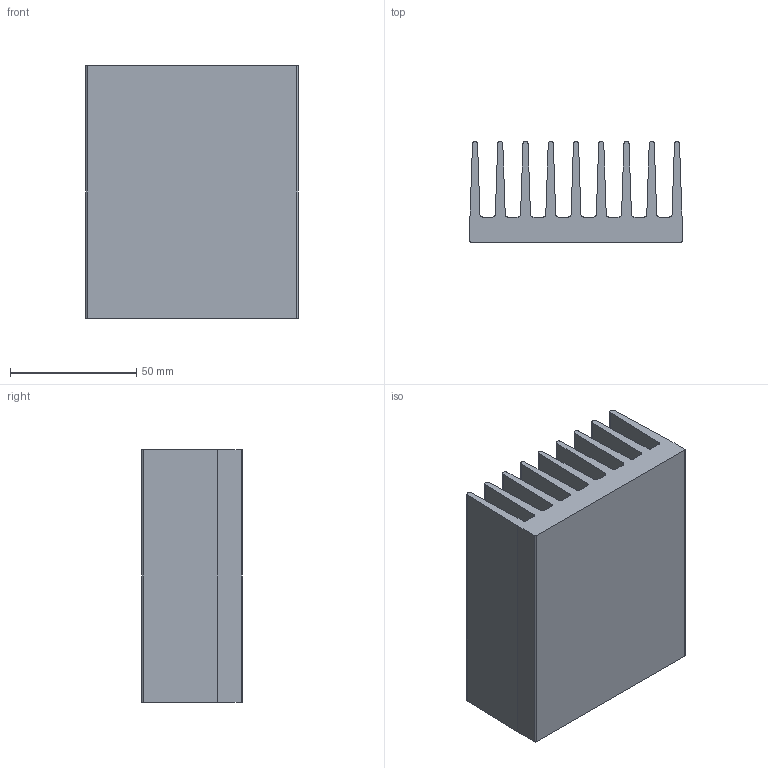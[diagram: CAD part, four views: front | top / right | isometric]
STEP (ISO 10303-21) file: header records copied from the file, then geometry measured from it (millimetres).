
FILE_DESCRIPTION (( 'STEP AP214' ), '1' );
FILE_NAME ('PR388.STEP', '2013-06-12T17:37:10', ( '' ), ( '' ), 'SwSTEP 2.0', 'SolidWorks 2013', '' );
FILE_SCHEMA (( 'AUTOMOTIVE_DESIGN' ));
Length unit declared in the file: millimetre
Products named in the file (1): PR388
Bounding box: 84 x 40 x 100 mm (x, y, z)
Volume: 164035.3 mm3; surface area: 72862.8 mm2
Topology: 1 solids, 1 shells, 58 faces, 168 edges, 112 vertices
Faces by surface type: plane 31, cylinder 27
Entity records: 1960 total; most frequent: DIRECTION 340, CARTESIAN_POINT 339, ORIENTED_EDGE 336, EDGE_CURVE 168, VECTOR 114, LINE 114, AXIS2_PLACEMENT_3D 113, VERTEX_POINT 112
